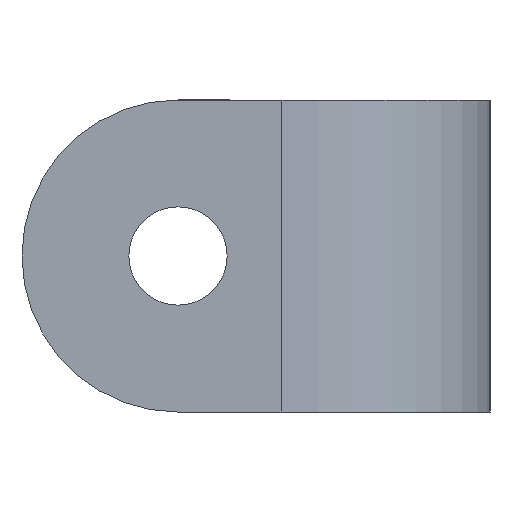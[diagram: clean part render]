
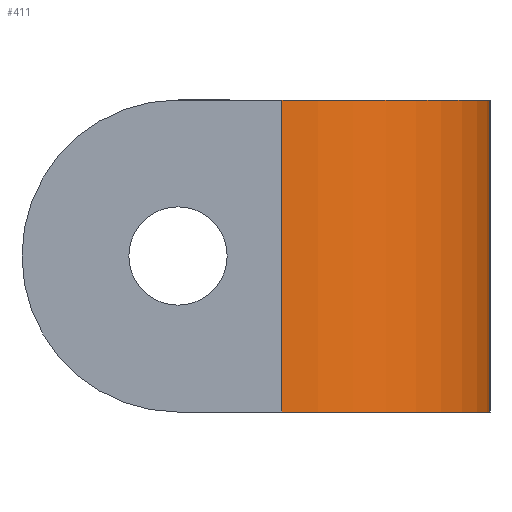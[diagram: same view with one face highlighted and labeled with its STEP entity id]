
A CAD part, left-side view. The second image highlights one B-rep face of the part: STEP entity #411.
In plain terms, the highlighted cylindrical face has radius 12.7 mm (diameter 25.4 mm), a partial arc.
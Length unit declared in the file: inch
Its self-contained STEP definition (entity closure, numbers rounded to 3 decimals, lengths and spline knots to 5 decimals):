
#49=FACE_OUTER_BOUND('',#77,.T.);
#77=EDGE_LOOP('',(#321,#322,#323,#324));
#117=LINE('',#682,#153);
#118=LINE('',#686,#154);
#153=VECTOR('',#553,0.3937);
#154=VECTOR('',#556,0.3937);
#183=CIRCLE('',#464,0.5);
#184=CIRCLE('',#465,0.5);
#207=VERTEX_POINT('',#661);
#213=VERTEX_POINT('',#681);
#214=VERTEX_POINT('',#683);
#215=VERTEX_POINT('',#685);
#253=EDGE_CURVE('',#213,#207,#117,.T.);
#254=EDGE_CURVE('',#213,#214,#183,.T.);
#255=EDGE_CURVE('',#215,#214,#118,.T.);
#256=EDGE_CURVE('',#215,#207,#184,.T.);
#321=ORIENTED_EDGE('',*,*,#253,.F.);
#322=ORIENTED_EDGE('',*,*,#254,.T.);
#323=ORIENTED_EDGE('',*,*,#255,.F.);
#324=ORIENTED_EDGE('',*,*,#256,.T.);
#397=CYLINDRICAL_SURFACE('',#463,0.5);
#411=ADVANCED_FACE('',(#49),#397,.T.);
#463=AXIS2_PLACEMENT_3D('',#680,#551,#552);
#464=AXIS2_PLACEMENT_3D('',#684,#554,#555);
#465=AXIS2_PLACEMENT_3D('',#687,#557,#558);
#551=DIRECTION('center_axis',(0.,0.,-1.));
#552=DIRECTION('ref_axis',(0.,-1.,0.));
#553=DIRECTION('',(0.,0.,1.));
#554=DIRECTION('center_axis',(0.,0.,1.));
#555=DIRECTION('ref_axis',(-1.,0.,0.));
#556=DIRECTION('',(0.,0.,-1.));
#557=DIRECTION('center_axis',(0.,0.,-1.));
#558=DIRECTION('ref_axis',(0.,-1.,0.));
#661=CARTESIAN_POINT('',(-4.049,0.5,0.375));
#680=CARTESIAN_POINT('Origin',(-3.549,0.5,0.));
#681=CARTESIAN_POINT('',(-4.049,0.5,-0.375));
#682=CARTESIAN_POINT('',(-4.049,0.5,0.));
#683=CARTESIAN_POINT('',(-3.549,0.,-0.375));
#684=CARTESIAN_POINT('Origin',(-3.549,0.5,-0.375));
#685=CARTESIAN_POINT('',(-3.549,0.,0.375));
#686=CARTESIAN_POINT('',(-3.549,0.,-0.1875));
#687=CARTESIAN_POINT('Origin',(-3.549,0.5,0.375));
